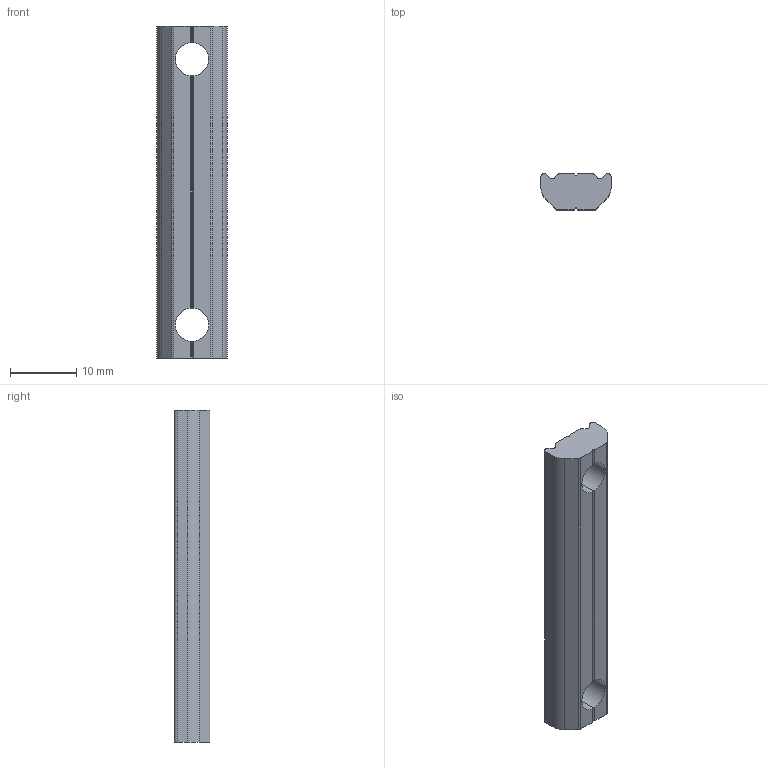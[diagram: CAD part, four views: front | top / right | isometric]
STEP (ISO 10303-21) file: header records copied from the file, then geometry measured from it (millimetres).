
FILE_DESCRIPTION (( 'STEP AP214' ), '1' );
FILE_NAME ('PTN-M5P40.STEP', '2019-10-30T02:31:40', ( '微软用户' ), ( '微软中国' ), 'SwSTEP 2.0', 'SolidWorks 2016', '' );
FILE_SCHEMA (( 'AUTOMOTIVE_DESIGN' ));
Length unit declared in the file: millimetre
Products named in the file (1): PTN-M5P40
Bounding box: 10.6 x 5.4 x 50 mm (x, y, z)
Volume: 2259.2 mm3; surface area: 1686.9 mm2
Topology: 1 solids, 1 shells, 50 faces, 156 edges, 104 vertices
Faces by surface type: plane 28, cylinder 22
Entity records: 1890 total; most frequent: CARTESIAN_POINT 503, ORIENTED_EDGE 312, DIRECTION 262, EDGE_CURVE 156, VERTEX_POINT 104, LINE 88, VECTOR 88, AXIS2_PLACEMENT_3D 87
